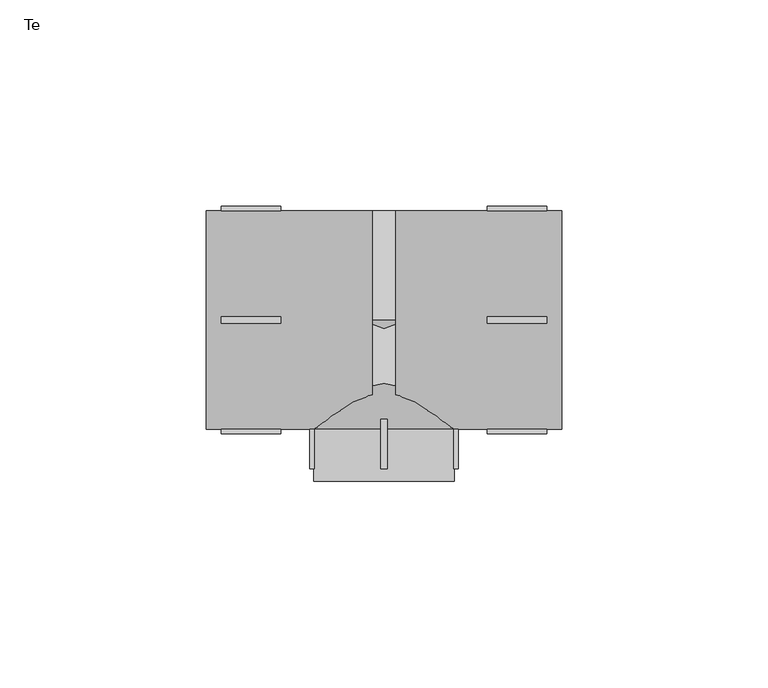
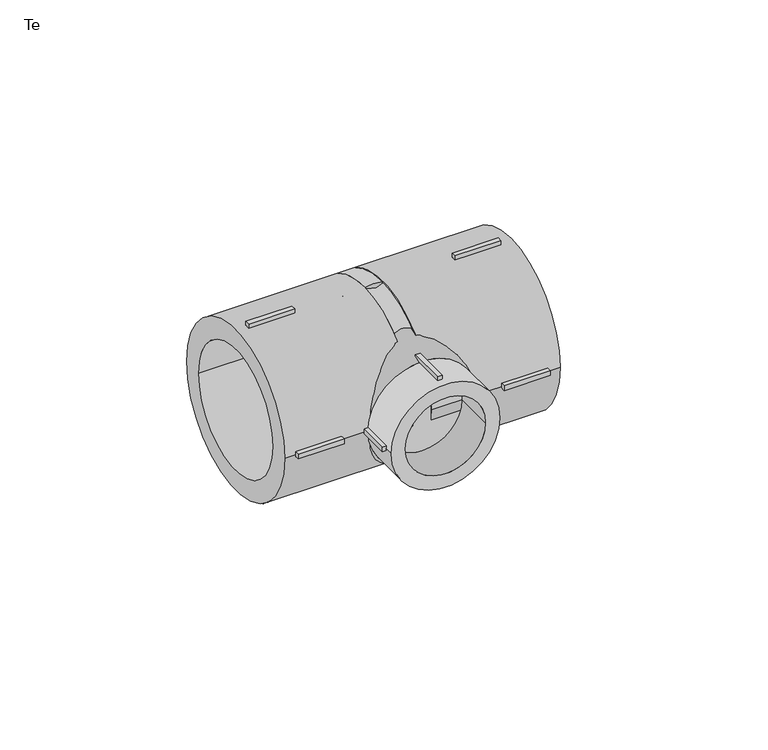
"""IFC4 building model written with IfcOpenShell, lengths in millimetres: pipe fitting geometry, EGB_VASEN_ PPR_Te WXR300_Te reducida WXR310 : Te."""

from ifc_helpers import new_model, si_unit, point, frame, origin, origin_2d, place, context, project, spatial, polyline, circle_curve, trimmed, segment, composite_curve, outline, extrude, source, transform, mapped, element, save
from ifc_brep_helpers import plane_surface, revolved_surface, advanced_brep


def te_d83e4661(model_context):
    return source(origin(), model_context, "Body", "SolidModel", [
        extrude(outline(polyline([(-0.75, -24.0), (0.75, -24.0), (0.75, -36.0), (-0.75, -36.0), (-0.75, -24.0)])), frame((0.0, 0.0, 16.0), z_axis=(0.0, 0.0, 1.0), x_axis=(1.0, 0.0, 0.0)), (0.0, 0.0, 1.0), 2.0),
        extrude(outline(polyline([(-0.75, -24.0), (0.75, -24.0), (0.75, -36.0), (-0.75, -36.0), (-0.75, -24.0)])), frame((0.0, 0.0, -18.0), z_axis=(0.0, 0.0, 1.0), x_axis=(1.0, 0.0, 0.0)), (0.0, 0.0, 1.0), 2.0),
        extrude(outline(polyline([(16.0, -24.0), (18.0, -24.0), (18.0, -36.0), (16.0, -36.0), (16.0, -24.0)])), frame((0.0, 0.0, -0.75), z_axis=(0.0, 0.0, 1.0), x_axis=(1.0, 0.0, 0.0)), (0.0, 0.0, 1.0), 1.5),
        extrude(outline(polyline([(-18.0, -24.0), (-16.0, -24.0), (-16.0, -36.0), (-18.0, -36.0), (-18.0, -24.0)])), frame((0.0, 0.0, -0.75), z_axis=(0.0, 0.0, 1.0), x_axis=(1.0, 0.0, 0.0)), (0.0, 0.0, 1.0), 1.5),
        extrude(outline(polyline([(25.0, -0.75), (25.0, 0.75), (39.4, 0.75), (39.4, -0.75), (25.0, -0.75)])), frame((0.0, 0.0, 25.5), z_axis=(0.0, 0.0, 1.0), x_axis=(1.0, 0.0, 0.0)), (0.0, 0.0, 1.0), 2.0),
        extrude(outline(polyline([(25.0, -0.75), (25.0, 0.75), (39.4, 0.75), (39.4, -0.75), (25.0, -0.75)])), frame((0.0, 0.0, -27.5), z_axis=(0.0, 0.0, 1.0), x_axis=(1.0, 0.0, 0.0)), (0.0, 0.0, 1.0), 2.0),
        extrude(outline(polyline([(25.0, 25.5), (25.0, 27.5), (39.4, 27.5), (39.4, 25.5), (25.0, 25.5)])), frame((0.0, 0.0, -0.75), z_axis=(0.0, 0.0, 1.0), x_axis=(1.0, 0.0, 0.0)), (0.0, 0.0, 1.0), 1.5),
        extrude(outline(polyline([(25.0, -27.5), (25.0, -25.5), (39.4, -25.5), (39.4, -27.5), (25.0, -27.5)])), frame((0.0, 0.0, -0.75), z_axis=(0.0, 0.0, 1.0), x_axis=(1.0, 0.0, 0.0)), (0.0, 0.0, 1.0), 1.5),
        extrude(outline(polyline([(-25.0, 0.75), (-25.0, -0.75), (-39.4, -0.75), (-39.4, 0.75), (-25.0, 0.75)])), frame((0.0, 0.0, 25.5), z_axis=(0.0, 0.0, 1.0), x_axis=(1.0, 0.0, 0.0)), (0.0, 0.0, 1.0), 2.0),
        extrude(outline(polyline([(-25.0, 0.75), (-25.0, -0.75), (-39.4, -0.75), (-39.4, 0.75), (-25.0, 0.75)])), frame((0.0, 0.0, -27.5), z_axis=(0.0, 0.0, 1.0), x_axis=(1.0, 0.0, 0.0)), (0.0, 0.0, 1.0), 2.0),
        extrude(outline(polyline([(-25.0, 27.5), (-25.0, 25.5), (-39.4, 25.5), (-39.4, 27.5), (-25.0, 27.5)])), frame((0.0, 0.0, -0.75), z_axis=(0.0, 0.0, 1.0), x_axis=(1.0, 0.0, 0.0)), (0.0, 0.0, 1.0), 1.5),
        extrude(outline(polyline([(-25.0, -25.5), (-25.0, -27.5), (-39.4, -27.5), (-39.4, -25.5), (-25.0, -25.5)])), frame((0.0, 0.0, -0.75), z_axis=(0.0, 0.0, 1.0), x_axis=(1.0, 0.0, 0.0)), (0.0, 0.0, 1.0), 1.5),
        extrude(outline(composite_curve([segment(trimmed(circle_curve(origin_2d(), 17.0), [point((0.0, 17.0))], [point((0.0, -17.0))], False, "CARTESIAN"), True, "CONTINUOUS"), segment(trimmed(circle_curve(origin_2d(), 17.0), [point((0.0, -17.0))], [point((0.0, 17.0))], False, "CARTESIAN"), True, "CONTINUOUS")], self_intersect=False), holes=[composite_curve([segment(trimmed(circle_curve(origin_2d(), 12.5), [point((0.0, 12.5))], [point((0.0, -12.5))], True, "CARTESIAN"), True, "CONTINUOUS"), segment(trimmed(circle_curve(origin_2d(), 12.5), [point((0.0, -12.5))], [point((0.0, 12.5))], True, "CARTESIAN"), True, "CONTINUOUS")], self_intersect=False)]), frame((0.0, -39.0, 0.0), z_axis=(0.0, 1.0, 0.0), x_axis=(0.0, 0.0, 1.0)), (0.0, 0.0, 1.0), 12.5),
        extrude(outline(composite_curve([segment(trimmed(circle_curve(origin_2d(), 26.5), [point((-26.5, 0.0))], [point((26.5, 0.0))], False, "CARTESIAN"), True, "CONTINUOUS"), segment(trimmed(circle_curve(origin_2d(), 26.5), [point((26.5, 0.0))], [point((-26.5, 0.0))], False, "CARTESIAN"), True, "CONTINUOUS")], self_intersect=False), holes=[composite_curve([segment(trimmed(circle_curve(origin_2d(), 20.0), [point((-20.0, 0.0))], [point((20.0, 0.0))], True, "CARTESIAN"), True, "CONTINUOUS"), segment(trimmed(circle_curve(origin_2d(), 20.0), [point((20.0, 0.0))], [point((-20.0, 0.0))], True, "CARTESIAN"), True, "CONTINUOUS")], self_intersect=False)]), frame((2.84, 0.0, 0.0), z_axis=(1.0, 0.0, 0.0), x_axis=(0.0, 1.0, 0.0)), (0.0, 0.0, 1.0), 40.16),
        extrude(outline(composite_curve([segment(trimmed(circle_curve(origin_2d(), 26.5), [point((-26.5, 0.0))], [point((26.5, 0.0))], False, "CARTESIAN"), True, "CONTINUOUS"), segment(trimmed(circle_curve(origin_2d(), 26.5), [point((26.5, 0.0))], [point((-26.5, 0.0))], False, "CARTESIAN"), True, "CONTINUOUS")], self_intersect=False), holes=[composite_curve([segment(trimmed(circle_curve(origin_2d(), 20.0), [point((-20.0, 0.0))], [point((20.0, 0.0))], True, "CARTESIAN"), True, "CONTINUOUS"), segment(trimmed(circle_curve(origin_2d(), 20.0), [point((20.0, 0.0))], [point((-20.0, 0.0))], True, "CARTESIAN"), True, "CONTINUOUS")], self_intersect=False)]), frame((-43.0, 0.0, 0.0), z_axis=(1.0, 0.0, 0.0), x_axis=(0.0, 1.0, 0.0)), (0.0, 0.0, 1.0), 40.16),
        advanced_brep(
        [(26.5, 0.0, 0.0), (-26.5, 0.0, 0.0), (17.0, -26.5, 0.0), (-17.0, -26.5, 0.0)],
        [
            (0, 1, circle_curve(frame((0.0, 0.0, 0.0), z_axis=(0.0, 1.0, 0.0), x_axis=(1.0, 0.0, 0.0)), 26.5)),
            (1, 0, circle_curve(frame((0.0, 0.0, 0.0), z_axis=(0.0, 1.0, 0.0), x_axis=(-1.0, 0.0, 0.0)), 26.5)),
            (2, 3, circle_curve(frame((0.0, -26.5, 0.0), z_axis=(0.0, -1.0, 0.0), x_axis=(-1.0, 0.0, 0.0)), 17.0)),
            (3, 2, circle_curve(frame((0.0, -26.5, 0.0), z_axis=(0.0, -1.0, 0.0), x_axis=(1.0, 0.0, 0.0)), 17.0)),
            (3, 1),
            (0, 2),
        ],
        [
            plane_surface(frame((0.0, 0.0, 0.0), z_axis=(0.0, 1.0, 0.0), x_axis=(0.0, 0.0, -1.0))),
            plane_surface(frame((0.0, -26.5, 0.0), z_axis=(0.0, -1.0, 0.0), x_axis=(0.0, 0.0, -1.0))),
            revolved_surface(polyline([(-16.999999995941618, -26.499999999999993, 0.0), (-26.5, 0.0, 0.0)]), (0.0, -73.9210526, 0.0), (0.0, 1.0, 0.0)),
            revolved_surface(polyline([(16.999999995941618, -26.499999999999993, 0.0), (26.5, 0.0, 0.0)]), (0.0, -73.9210526, 0.0), (0.0, 1.0, 0.0)),
        ],
        [
            (0, [[1, 2]]),
            (1, [[3, 4]]),
            (2, [[-4, 5, -1, 6]]),
            (3, [[-3, -6, -2, -5]]),
        ],
    ),
        extrude(outline(composite_curve([segment(trimmed(circle_curve(origin_2d(), 26.5), [point((-26.5, 0.0))], [point((26.5, 0.0))], False, "CARTESIAN"), True, "CONTINUOUS"), segment(trimmed(circle_curve(origin_2d(), 26.5), [point((26.5, 0.0))], [point((-26.5, 0.0))], False, "CARTESIAN"), True, "CONTINUOUS")], self_intersect=False)), frame((-2.84, 0.0, 0.0), z_axis=(1.0, 0.0, 0.0), x_axis=(0.0, 1.0, 0.0)), (0.0, 0.0, 1.0), 5.68),
    ])


if __name__ == "__main__":
    model = new_model("IFC4")
    model_context = context("Model", 3, world=origin())
    ifc_project = project(units=[si_unit("LENGTHUNIT", "METRE", prefix="MILLI")], contexts=[model_context])
    site = spatial("IfcSite", under=ifc_project)
    building = spatial("IfcBuilding", under=site)
    placement = place(None, origin())
    te_shape = te_d83e4661(model_context)
    element("IfcPipeFitting", 1, ObjectType="EGB_VASEN_ PPR_Te WXR300_Te reducida WXR310 : Te", at=placement, inside=building, context=model_context, shape_type="MappedRepresentation", body=[
        mapped(te_shape, transform((0.0, 0.0, 0.0), x_axis=(1.0, 0.0, 0.0), y_axis=(0.0, 1.0, 0.0), z_axis=(0.0, 0.0, 1.0))),
    ])
    save(model, "model.ifc")
